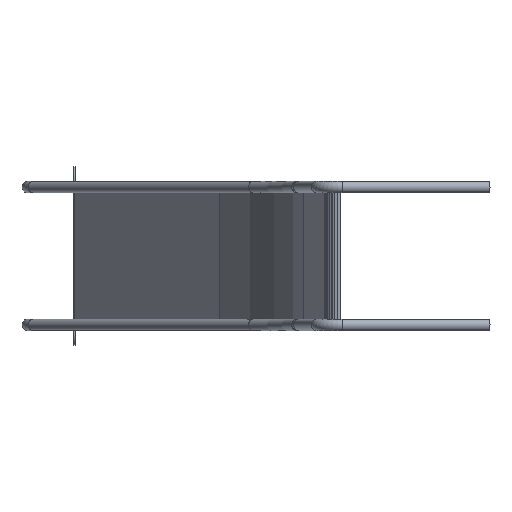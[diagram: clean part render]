
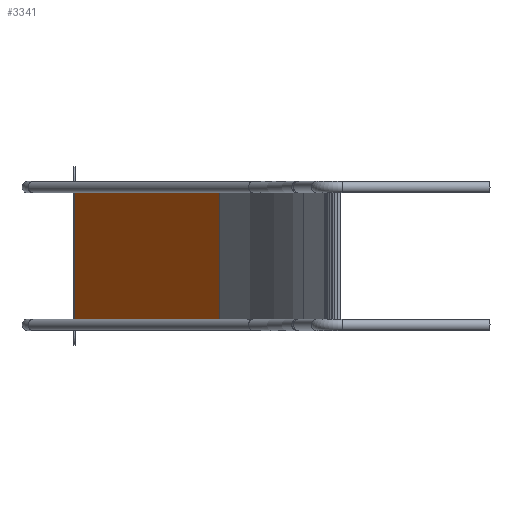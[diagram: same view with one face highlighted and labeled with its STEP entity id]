
A CAD part, left-side view. The second image highlights one B-rep face of the part: STEP entity #3341.
In plain terms, the highlighted planar face has unit normal (-0.616, 0.788, 0) as drawn and (0, 0, -1) by its records, which use the part's own axes.
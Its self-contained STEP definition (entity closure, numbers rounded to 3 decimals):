
#216=FACE_OUTER_BOUND('',#425,.T.);
#425=EDGE_LOOP('',(#2281,#2282,#2283,#2284,#2285,#2286,#2287,#2288));
#764=LINE('',#5155,#1104);
#781=LINE('',#5195,#1121);
#786=LINE('',#5204,#1126);
#787=LINE('',#5207,#1127);
#788=LINE('',#5208,#1128);
#789=LINE('',#5210,#1129);
#790=LINE('',#5212,#1130);
#791=LINE('',#5213,#1131);
#1104=VECTOR('',#4108,10.);
#1121=VECTOR('',#4147,10.);
#1126=VECTOR('',#4156,10.);
#1127=VECTOR('',#4159,10.);
#1128=VECTOR('',#4160,10.);
#1129=VECTOR('',#4161,10.);
#1130=VECTOR('',#4162,10.);
#1131=VECTOR('',#4163,10.);
#1441=VERTEX_POINT('',#5130);
#1446=VERTEX_POINT('',#5142);
#1457=VERTEX_POINT('',#5171);
#1462=VERTEX_POINT('',#5188);
#1465=VERTEX_POINT('',#5202);
#1466=VERTEX_POINT('',#5206);
#1467=VERTEX_POINT('',#5209);
#1468=VERTEX_POINT('',#5211);
#1746=EDGE_CURVE('',#1446,#1441,#764,.T.);
#1767=EDGE_CURVE('',#1462,#1457,#781,.T.);
#1772=EDGE_CURVE('',#1457,#1465,#786,.T.);
#1773=EDGE_CURVE('',#1465,#1466,#787,.T.);
#1774=EDGE_CURVE('',#1466,#1446,#788,.T.);
#1775=EDGE_CURVE('',#1441,#1467,#789,.T.);
#1776=EDGE_CURVE('',#1467,#1468,#790,.T.);
#1777=EDGE_CURVE('',#1468,#1462,#791,.T.);
#2281=ORIENTED_EDGE('',*,*,#1767,.T.);
#2282=ORIENTED_EDGE('',*,*,#1772,.T.);
#2283=ORIENTED_EDGE('',*,*,#1773,.T.);
#2284=ORIENTED_EDGE('',*,*,#1774,.T.);
#2285=ORIENTED_EDGE('',*,*,#1746,.T.);
#2286=ORIENTED_EDGE('',*,*,#1775,.T.);
#2287=ORIENTED_EDGE('',*,*,#1776,.T.);
#2288=ORIENTED_EDGE('',*,*,#1777,.T.);
#3199=PLANE('',#3743);
#3341=ADVANCED_FACE('',(#216),#3199,.T.);
#3743=AXIS2_PLACEMENT_3D('',#5205,#4157,#4158);
#4108=DIRECTION('',(0.,1.,0.));
#4147=DIRECTION('',(0.,-1.,0.));
#4156=DIRECTION('',(-1.,0.,0.));
#4157=DIRECTION('center_axis',(0.,0.,-1.));
#4158=DIRECTION('ref_axis',(0.,1.,0.));
#4159=DIRECTION('',(0.,-1.,0.));
#4160=DIRECTION('',(-1.,0.,0.));
#4161=DIRECTION('',(1.,0.,0.));
#4162=DIRECTION('',(0.,-1.,0.));
#4163=DIRECTION('',(1.,0.,0.));
#5130=CARTESIAN_POINT('',(-887.964,427.476,-542.524));
#5142=CARTESIAN_POINT('',(-887.964,4.,-542.524));
#5155=CARTESIAN_POINT('',(-887.964,-146.262,-542.524));
#5171=CARTESIAN_POINT('',(-97.342,5.765,-542.524));
#5188=CARTESIAN_POINT('',(-97.342,425.765,-542.524));
#5195=CARTESIAN_POINT('',(-97.342,320.765,-542.524));
#5202=CARTESIAN_POINT('',(-98.919,5.765,-542.524));
#5204=CARTESIAN_POINT('',(-97.009,5.765,-542.524));
#5205=CARTESIAN_POINT('Origin',(-206.675,215.765,-542.524));
#5206=CARTESIAN_POINT('',(-98.919,4.,-542.524));
#5207=CARTESIAN_POINT('',(-98.919,5.765,-542.524));
#5208=CARTESIAN_POINT('',(-315.82,4.,-542.524));
#5209=CARTESIAN_POINT('',(-98.919,427.476,-542.524));
#5210=CARTESIAN_POINT('',(-152.797,427.476,-542.524));
#5211=CARTESIAN_POINT('',(-98.919,425.765,-542.524));
#5212=CARTESIAN_POINT('',(-98.919,430.289,-542.524));
#5213=CARTESIAN_POINT('',(-98.919,425.765,-542.524));
